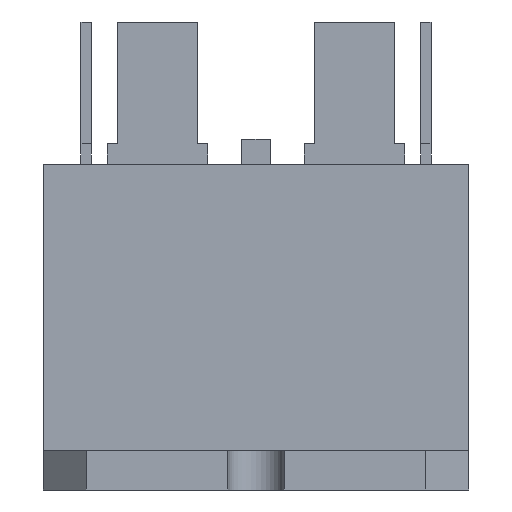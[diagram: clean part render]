
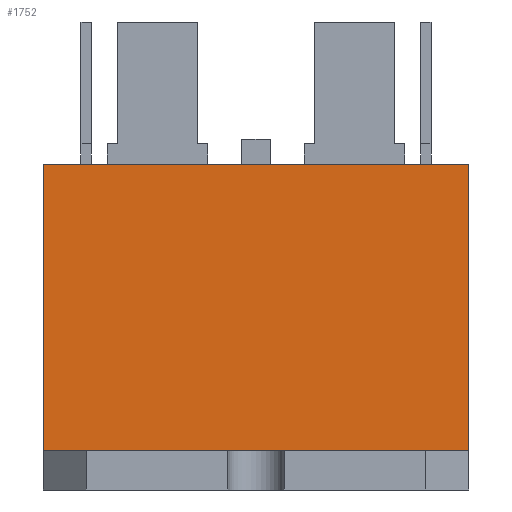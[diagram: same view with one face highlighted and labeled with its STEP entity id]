
A CAD part, left-side view. The second image highlights one B-rep face of the part: STEP entity #1752.
In plain terms, the highlighted planar face has unit normal (-1, 0, 0).
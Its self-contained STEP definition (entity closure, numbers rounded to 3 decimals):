
#150=DIRECTION('',(0.,0.,-1.));
#151=VECTOR('',#150,23.241);
#152=CARTESIAN_POINT('',(-26.035,17.272,0.));
#153=LINE('',#152,#151);
#300=DIRECTION('',(0.,0.,-1.));
#301=VECTOR('',#300,23.241);
#302=CARTESIAN_POINT('',(-26.035,-17.272,0.));
#303=LINE('',#302,#301);
#378=DIRECTION('',(0.,-1.,0.));
#379=VECTOR('',#378,34.544);
#380=CARTESIAN_POINT('',(-26.035,17.272,-23.241));
#381=LINE('',#380,#379);
#414=DIRECTION('',(0.,-1.,0.));
#415=VECTOR('',#414,34.544);
#416=CARTESIAN_POINT('',(-26.035,17.272,0.));
#417=LINE('',#416,#415);
#1054=CARTESIAN_POINT('',(-26.035,17.272,0.));
#1055=VERTEX_POINT('',#1054);
#1056=CARTESIAN_POINT('',(-26.035,17.272,-23.241));
#1057=VERTEX_POINT('',#1056);
#1062=CARTESIAN_POINT('',(-26.035,-17.272,0.));
#1063=VERTEX_POINT('',#1062);
#1064=CARTESIAN_POINT('',(-26.035,-17.272,-23.241));
#1065=VERTEX_POINT('',#1064);
#1740=CARTESIAN_POINT('',(-26.035,17.272,0.));
#1741=DIRECTION('',(-1.,0.,0.));
#1742=DIRECTION('',(0.,0.,-1.));
#1743=AXIS2_PLACEMENT_3D('',#1740,#1741,#1742);
#1744=PLANE('',#1743);
#1745=ORIENTED_EDGE('',*,*,#1367,.F.);
#1747=ORIENTED_EDGE('',*,*,#1746,.T.);
#1748=ORIENTED_EDGE('',*,*,#1550,.T.);
#1749=ORIENTED_EDGE('',*,*,#1654,.F.);
#1750=EDGE_LOOP('',(#1745,#1747,#1748,#1749));
#1751=FACE_OUTER_BOUND('',#1750,.F.);
#1367=EDGE_CURVE('',#1055,#1057,#153,.T.);
#1550=EDGE_CURVE('',#1063,#1065,#303,.T.);
#1654=EDGE_CURVE('',#1057,#1065,#381,.T.);
#1746=EDGE_CURVE('',#1055,#1063,#417,.T.);
#1752=ADVANCED_FACE('',(#1751),#1744,.T.);
